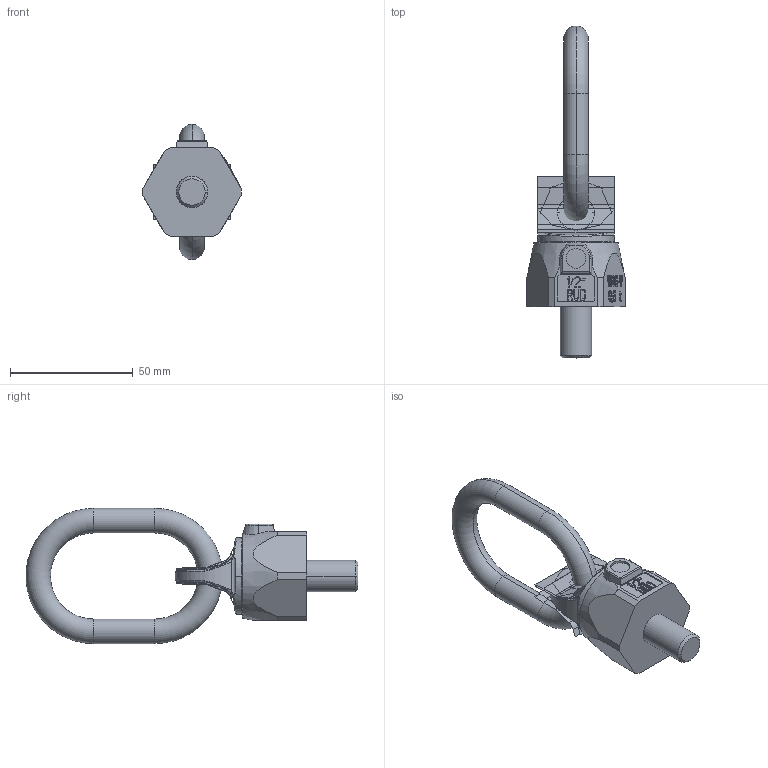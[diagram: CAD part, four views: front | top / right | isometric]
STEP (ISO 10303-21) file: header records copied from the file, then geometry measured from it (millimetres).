
FILE_DESCRIPTION((''),'2;1');
FILE_NAME('001-M31707-P-7_ASM','2005-01-11T',('jakubetz'),(''),'PRO/ENGINEER BY PARAMETRIC TECHNOLOGY CORPORATION, 2001400','PRO/ENGINEER BY PARAMETRIC TECHNOLOGY CORPORATION, 2001400','');
FILE_SCHEMA(('CONFIG_CONTROL_DESIGN'));
Length unit declared in the file: millimetre
Products named in the file (5): 001-M31707-P-7; 001-M31707-P-8; 001-M31707-P-2; 001-M31707-P-3; 001-M31707-P-7_ASM
Assembly tree (4 placements, depth 2):
  001-M31707-P-7_ASM
    001-M31707-P-7
    001-M31707-P-8
    001-M31707-P-2
    001-M31707-P-3
Bounding box: 40 x 135.03 x 55 mm (x, y, z)
Volume: 49852.7 mm3; surface area: 22933 mm2
Topology: 4 solids, 8 shells, 690 faces, 1846 edges, 1192 vertices
Faces by surface type: plane 497, cylinder 92, bspline 65, cone 19, torus 17
Entity records: 23885 total; most frequent: CARTESIAN_POINT 7111, ORIENTED_EDGE 3636, DIRECTION 3107, EDGE_CURVE 1846, VECTOR 1413, LINE 1413, VERTEX_POINT 1192, AXIS2_PLACEMENT_3D 847
